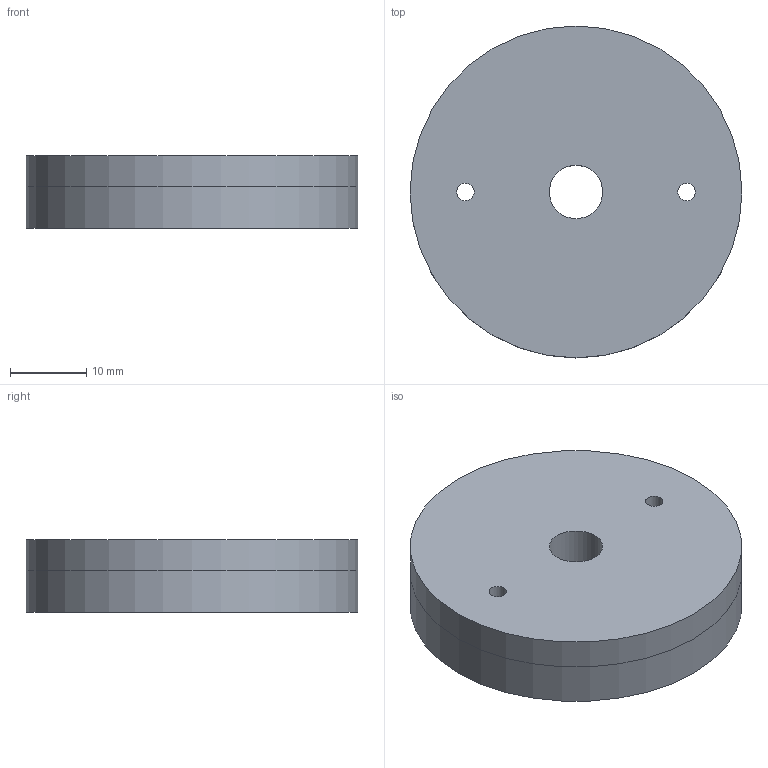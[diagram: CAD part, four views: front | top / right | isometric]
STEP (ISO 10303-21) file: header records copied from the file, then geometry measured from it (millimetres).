
FILE_DESCRIPTION(('FreeCAD Model'),'2;1');
FILE_NAME('Open CASCADE Shape Model','2026-11-07T16:11:59',('FreeCAD'),( 'FreeCAD'),'Open CASCADE STEP processor 7.8','FreeCAD','Unknown');
FILE_SCHEMA(('AUTOMOTIVE_DESIGN { 1 0 10303 214 1 1 1 1 }'));
Length unit declared in the file: millimetre
Products named in the file (1): Open CASCADE STEP translator 7.8 12
Bounding box: 43.5 x 43.5 x 9.5 mm (x, y, z)
Volume: 11103 mm3; surface area: 4722.7 mm2
Topology: 1 solids, 1 shells, 9 faces, 17 edges, 11 vertices
Faces by surface type: cylinder 6, plane 3
Full cylindrical faces by diameter (mm): 2.3 x2, 7 x1, 37 x1, 43.5 x2
Entity records: 256 total; most frequent: DIRECTION 48, CARTESIAN_POINT 38, ORIENTED_EDGE 34, AXIS2_PLACEMENT_3D 21, EDGE_CURVE 17, FACE_BOUND 16, EDGE_LOOP 16, VERTEX_POINT 11
